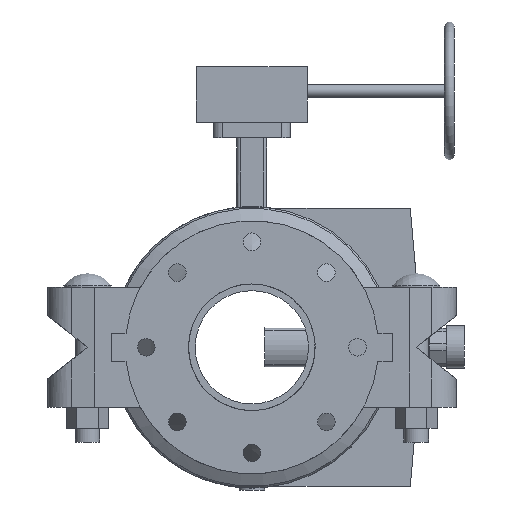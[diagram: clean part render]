
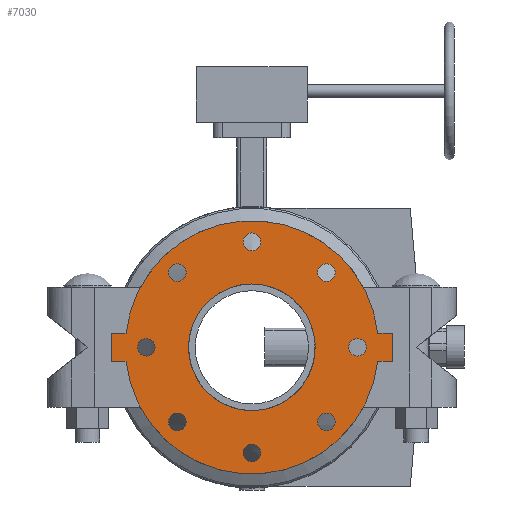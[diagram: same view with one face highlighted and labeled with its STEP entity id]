
A CAD part, front view. The second image highlights one B-rep face of the part: STEP entity #7030.
In plain terms, the highlighted planar face has unit normal (0, -1, 0) as drawn and (0, 0, -1) by its records, which use the part's own axes.
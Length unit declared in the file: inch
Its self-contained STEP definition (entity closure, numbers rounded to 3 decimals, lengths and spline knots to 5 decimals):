
#187=FACE_BOUND('',#893,.T.);
#188=FACE_BOUND('',#894,.T.);
#189=FACE_BOUND('',#895,.T.);
#190=FACE_BOUND('',#896,.T.);
#191=FACE_BOUND('',#897,.T.);
#192=FACE_BOUND('',#898,.T.);
#193=FACE_BOUND('',#899,.T.);
#194=FACE_BOUND('',#900,.T.);
#195=FACE_BOUND('',#901,.T.);
#274=PLANE('',#7635);
#509=FACE_OUTER_BOUND('',#892,.T.);
#892=EDGE_LOOP('',(#4518,#4519,#4520,#4521,#4522,#4523,#4524,#4525));
#893=EDGE_LOOP('',(#4526));
#894=EDGE_LOOP('',(#4527));
#895=EDGE_LOOP('',(#4528));
#896=EDGE_LOOP('',(#4529));
#897=EDGE_LOOP('',(#4530));
#898=EDGE_LOOP('',(#4531));
#899=EDGE_LOOP('',(#4532));
#900=EDGE_LOOP('',(#4533));
#901=EDGE_LOOP('',(#4534,#4535));
#1362=LINE('',#10674,#1882);
#1363=LINE('',#10676,#1883);
#1364=LINE('',#10678,#1884);
#1365=LINE('',#10682,#1885);
#1366=LINE('',#10684,#1886);
#1367=LINE('',#10685,#1887);
#1882=VECTOR('',#8503,0.3937);
#1883=VECTOR('',#8504,0.3937);
#1884=VECTOR('',#8505,0.3937);
#1885=VECTOR('',#8508,0.3937);
#1886=VECTOR('',#8509,0.3937);
#1887=VECTOR('',#8510,0.3937);
#2395=CIRCLE('',#7613,0.3125);
#2397=CIRCLE('',#7616,0.3125);
#2399=CIRCLE('',#7619,0.3125);
#2401=CIRCLE('',#7622,0.3125);
#2403=CIRCLE('',#7625,0.3125);
#2405=CIRCLE('',#7628,0.3125);
#2407=CIRCLE('',#7631,0.3125);
#2409=CIRCLE('',#7634,0.3125);
#2410=CIRCLE('',#7636,4.5);
#2411=CIRCLE('',#7637,4.5);
#2412=CIRCLE('',#7638,2.25);
#2413=CIRCLE('',#7639,2.25);
#2799=VERTEX_POINT('',#10624);
#2801=VERTEX_POINT('',#10630);
#2803=VERTEX_POINT('',#10636);
#2805=VERTEX_POINT('',#10642);
#2807=VERTEX_POINT('',#10648);
#2809=VERTEX_POINT('',#10654);
#2811=VERTEX_POINT('',#10660);
#2813=VERTEX_POINT('',#10666);
#2814=VERTEX_POINT('',#10670);
#2815=VERTEX_POINT('',#10671);
#2816=VERTEX_POINT('',#10673);
#2817=VERTEX_POINT('',#10675);
#2818=VERTEX_POINT('',#10677);
#2819=VERTEX_POINT('',#10679);
#2820=VERTEX_POINT('',#10681);
#2821=VERTEX_POINT('',#10683);
#2822=VERTEX_POINT('',#10686);
#2823=VERTEX_POINT('',#10687);
#3480=EDGE_CURVE('',#2799,#2799,#2395,.T.);
#3483=EDGE_CURVE('',#2801,#2801,#2397,.T.);
#3486=EDGE_CURVE('',#2803,#2803,#2399,.T.);
#3489=EDGE_CURVE('',#2805,#2805,#2401,.T.);
#3492=EDGE_CURVE('',#2807,#2807,#2403,.T.);
#3495=EDGE_CURVE('',#2809,#2809,#2405,.T.);
#3498=EDGE_CURVE('',#2811,#2811,#2407,.T.);
#3501=EDGE_CURVE('',#2813,#2813,#2409,.T.);
#3502=EDGE_CURVE('',#2814,#2815,#2410,.T.);
#3503=EDGE_CURVE('',#2815,#2816,#1362,.T.);
#3504=EDGE_CURVE('',#2816,#2817,#1363,.T.);
#3505=EDGE_CURVE('',#2817,#2818,#1364,.T.);
#3506=EDGE_CURVE('',#2818,#2819,#2411,.T.);
#3507=EDGE_CURVE('',#2819,#2820,#1365,.T.);
#3508=EDGE_CURVE('',#2820,#2821,#1366,.T.);
#3509=EDGE_CURVE('',#2821,#2814,#1367,.T.);
#3510=EDGE_CURVE('',#2822,#2823,#2412,.T.);
#3511=EDGE_CURVE('',#2823,#2822,#2413,.T.);
#4518=ORIENTED_EDGE('',*,*,#3502,.T.);
#4519=ORIENTED_EDGE('',*,*,#3503,.T.);
#4520=ORIENTED_EDGE('',*,*,#3504,.T.);
#4521=ORIENTED_EDGE('',*,*,#3505,.T.);
#4522=ORIENTED_EDGE('',*,*,#3506,.T.);
#4523=ORIENTED_EDGE('',*,*,#3507,.T.);
#4524=ORIENTED_EDGE('',*,*,#3508,.T.);
#4525=ORIENTED_EDGE('',*,*,#3509,.T.);
#4526=ORIENTED_EDGE('',*,*,#3480,.T.);
#4527=ORIENTED_EDGE('',*,*,#3483,.T.);
#4528=ORIENTED_EDGE('',*,*,#3486,.T.);
#4529=ORIENTED_EDGE('',*,*,#3489,.T.);
#4530=ORIENTED_EDGE('',*,*,#3492,.T.);
#4531=ORIENTED_EDGE('',*,*,#3495,.T.);
#4532=ORIENTED_EDGE('',*,*,#3498,.T.);
#4533=ORIENTED_EDGE('',*,*,#3501,.T.);
#4534=ORIENTED_EDGE('',*,*,#3510,.T.);
#4535=ORIENTED_EDGE('',*,*,#3511,.T.);
#7030=ADVANCED_FACE('',(#509,#187,#188,#189,#190,#191,#192,#193,#194,#195),
#274,.T.);
#7613=AXIS2_PLACEMENT_3D('',#10626,#8448,#8449);
#7616=AXIS2_PLACEMENT_3D('',#10632,#8455,#8456);
#7619=AXIS2_PLACEMENT_3D('',#10638,#8462,#8463);
#7622=AXIS2_PLACEMENT_3D('',#10644,#8469,#8470);
#7625=AXIS2_PLACEMENT_3D('',#10650,#8476,#8477);
#7628=AXIS2_PLACEMENT_3D('',#10656,#8483,#8484);
#7631=AXIS2_PLACEMENT_3D('',#10662,#8490,#8491);
#7634=AXIS2_PLACEMENT_3D('',#10668,#8497,#8498);
#7635=AXIS2_PLACEMENT_3D('',#10669,#8499,#8500);
#7636=AXIS2_PLACEMENT_3D('',#10672,#8501,#8502);
#7637=AXIS2_PLACEMENT_3D('',#10680,#8506,#8507);
#7638=AXIS2_PLACEMENT_3D('',#10688,#8511,#8512);
#7639=AXIS2_PLACEMENT_3D('',#10689,#8513,#8514);
#8448=DIRECTION('center_axis',(0.,0.,1.));
#8449=DIRECTION('ref_axis',(-0.707,0.707,0.));
#8455=DIRECTION('center_axis',(0.,0.,1.));
#8456=DIRECTION('ref_axis',(0.,1.,0.));
#8462=DIRECTION('center_axis',(0.,0.,1.));
#8463=DIRECTION('ref_axis',(0.707,0.707,0.));
#8469=DIRECTION('center_axis',(0.,0.,1.));
#8470=DIRECTION('ref_axis',(1.,0.,0.));
#8476=DIRECTION('center_axis',(0.,0.,1.));
#8477=DIRECTION('ref_axis',(0.707,-0.707,0.));
#8483=DIRECTION('center_axis',(0.,0.,1.));
#8484=DIRECTION('ref_axis',(0.,-1.,0.));
#8490=DIRECTION('center_axis',(0.,0.,1.));
#8491=DIRECTION('ref_axis',(-0.707,-0.707,0.));
#8497=DIRECTION('center_axis',(0.,0.,1.));
#8498=DIRECTION('ref_axis',(-1.,0.,0.));
#8499=DIRECTION('center_axis',(0.,0.,-1.));
#8500=DIRECTION('ref_axis',(-1.,0.,0.));
#8501=DIRECTION('center_axis',(0.,0.,-1.));
#8502=DIRECTION('ref_axis',(-1.,0.,0.));
#8503=DIRECTION('',(0.,1.,0.));
#8504=DIRECTION('',(1.,0.,0.));
#8505=DIRECTION('',(0.,-1.,0.));
#8506=DIRECTION('center_axis',(0.,0.,-1.));
#8507=DIRECTION('ref_axis',(-1.,0.,0.));
#8508=DIRECTION('',(0.,-1.,0.));
#8509=DIRECTION('',(-1.,0.,0.));
#8510=DIRECTION('',(0.,1.,0.));
#8511=DIRECTION('center_axis',(0.,0.,1.));
#8512=DIRECTION('ref_axis',(-1.,0.,0.));
#8513=DIRECTION('center_axis',(0.,0.,1.));
#8514=DIRECTION('ref_axis',(-1.,0.,0.));
#10624=CARTESIAN_POINT('',(-2.43068,2.43068,-0.5));
#10626=CARTESIAN_POINT('Origin',(-2.65165,2.65165,-0.5));
#10630=CARTESIAN_POINT('',(0.,3.4375,-0.5));
#10632=CARTESIAN_POINT('Origin',(0.,3.75,-0.5));
#10636=CARTESIAN_POINT('',(2.43068,2.43068,-0.5));
#10638=CARTESIAN_POINT('Origin',(2.65165,2.65165,-0.5));
#10642=CARTESIAN_POINT('',(3.4375,0.,-0.5));
#10644=CARTESIAN_POINT('Origin',(3.75,0.,-0.5));
#10648=CARTESIAN_POINT('',(2.43068,-2.43068,-0.5));
#10650=CARTESIAN_POINT('Origin',(2.65165,-2.65165,-0.5));
#10654=CARTESIAN_POINT('',(0.,-3.4375,-0.5));
#10656=CARTESIAN_POINT('Origin',(0.,-3.75,-0.5));
#10660=CARTESIAN_POINT('',(-2.43068,-2.43068,-0.5));
#10662=CARTESIAN_POINT('Origin',(-2.65165,-2.65165,-0.5));
#10666=CARTESIAN_POINT('',(-3.4375,0.,-0.5));
#10668=CARTESIAN_POINT('Origin',(-3.75,0.,-0.5));
#10669=CARTESIAN_POINT('Origin',(0.,0.,-0.5));
#10670=CARTESIAN_POINT('',(-0.5,-4.47214,-0.5));
#10671=CARTESIAN_POINT('',(-0.5,4.47214,-0.5));
#10672=CARTESIAN_POINT('Origin',(0.,0.,-0.5));
#10673=CARTESIAN_POINT('',(-0.5,5.,-0.5));
#10674=CARTESIAN_POINT('',(-0.5,-5.,-0.5));
#10675=CARTESIAN_POINT('',(0.5,5.,-0.5));
#10676=CARTESIAN_POINT('',(-0.5,5.,-0.5));
#10677=CARTESIAN_POINT('',(0.5,4.47214,-0.5));
#10678=CARTESIAN_POINT('',(0.5,5.,-0.5));
#10679=CARTESIAN_POINT('',(0.5,-4.47214,-0.5));
#10680=CARTESIAN_POINT('Origin',(0.,0.,-0.5));
#10681=CARTESIAN_POINT('',(0.5,-5.,-0.5));
#10682=CARTESIAN_POINT('',(0.5,5.,-0.5));
#10683=CARTESIAN_POINT('',(-0.5,-5.,-0.5));
#10684=CARTESIAN_POINT('',(0.5,-5.,-0.5));
#10685=CARTESIAN_POINT('',(-0.5,-5.,-0.5));
#10686=CARTESIAN_POINT('',(0.5,2.19374,-0.5));
#10687=CARTESIAN_POINT('',(2.25,0.,-0.5));
#10688=CARTESIAN_POINT('Origin',(0.,0.,-0.5));
#10689=CARTESIAN_POINT('Origin',(0.,0.,-0.5));
